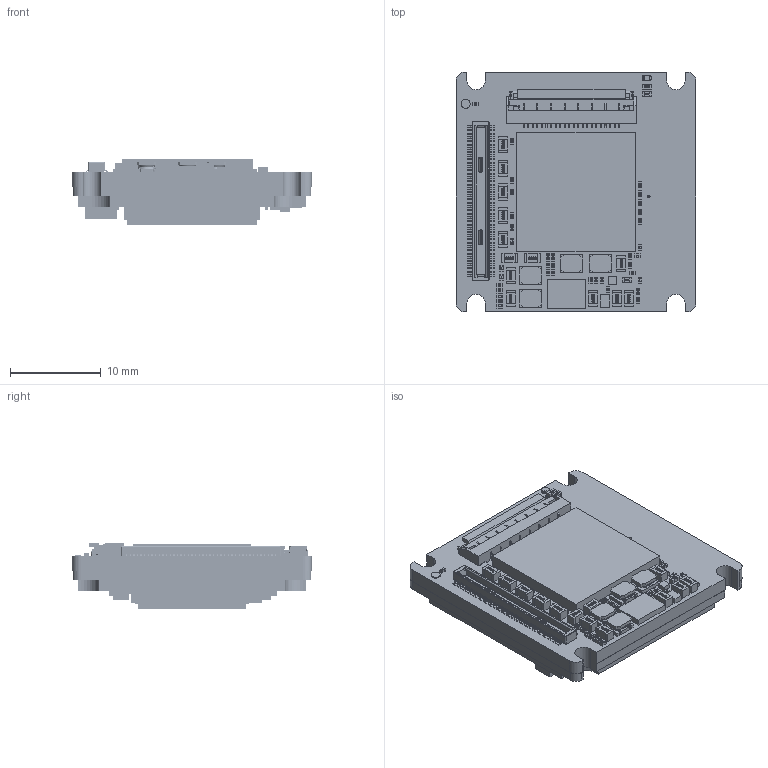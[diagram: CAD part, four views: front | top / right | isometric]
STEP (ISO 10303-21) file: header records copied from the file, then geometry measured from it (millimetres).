
FILE_DESCRIPTION (( 'STEP AP214' ), '1' );
FILE_NAME ('Alvium-CSI2-Bare-Board-IMX226.STEP', '2022-12-21T10:26:42', ( '' ), ( '' ), 'SwSTEP 2.0', 'SolidWorks 2021', '' );
FILE_SCHEMA (( 'AUTOMOTIVE_DESIGN' ));
Length unit declared in the file: millimetre
Products named in the file (1): Alvium-CSI2-Bare-Board-IMX226
Bounding box: 26.4 x 26.4 x 7.23 mm (x, y, z)
Volume: 3198.3 mm3; surface area: 4072.5 mm2
Topology: 141 solids, 141 shells, 9095 faces, 23317 edges, 15332 vertices
Faces by surface type: plane 4413, bspline 3806, cylinder 844, torus 28, cone 4
Entity records: 590656 total; most frequent: CARTESIAN_POINT 293369, ORIENTED_EDGE 46634, DIRECTION 27941, EDGE_CURVE 23317, VERTEX_POINT 15332, VECTOR 13913, LINE 13913, EDGE_LOOP 9941
